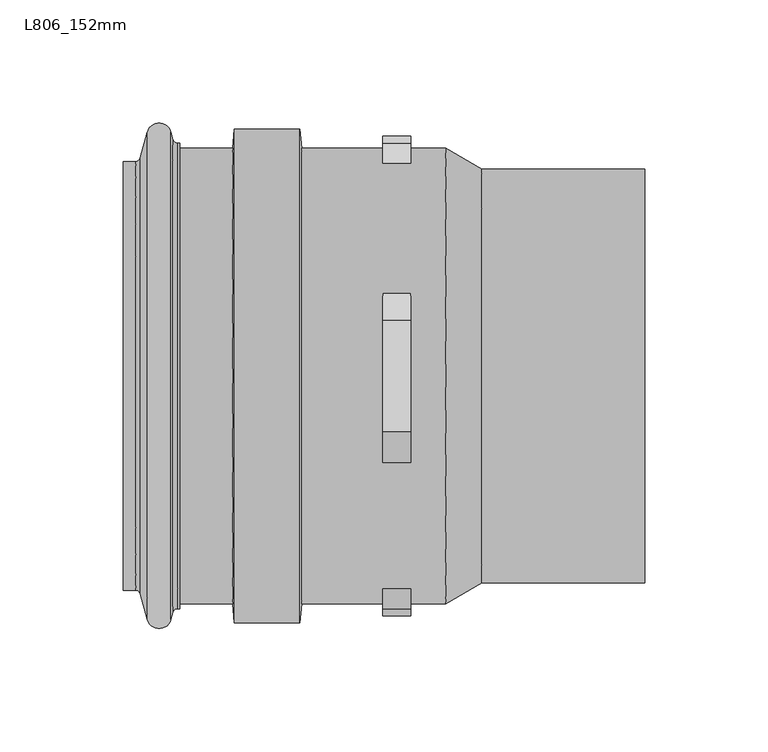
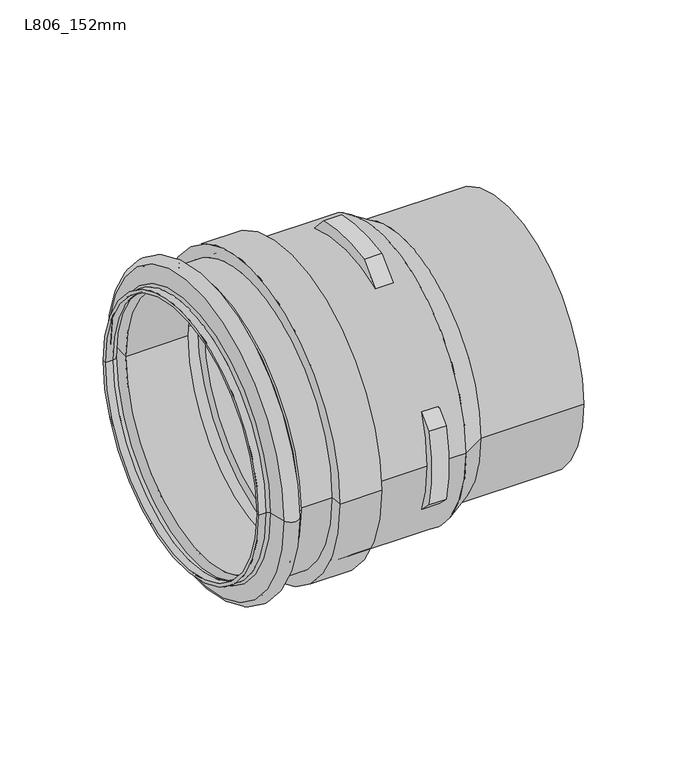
"""IFC4 building model written with IfcOpenShell, lengths in millimetres: pipe fitting geometry, Durapipe_PipeFitting_VulcatheneEnfusion_ThermalStressReliefUnit_L80 : L806_152mm."""

from ifc_helpers import new_model, si_unit, point, frame, origin, place, context, project, spatial, polyline, circle_curve, ellipse_curve, trimmed, source, transform, mapped, element, save
from ifc_brep_helpers import plane_surface, cylinder_surface, revolved_surface, advanced_brep


def l806_152mm_c43d5f0f(model_context):
    return source(origin(), model_context, "Body", "AdvancedBrep", [
        advanced_brep(
        [(105.7723599, -83.9800301, 0.0), (105.7723599, 83.9800301, 0.0), (105.7723599, 75.8340472, 0.0), (105.7723599, -75.8340472, 0.0), (39.7204925, -83.9800301, 0.0), (39.7204925, 83.9800301, 0.0), (25.0356828, -92.4583089, 0.0), (25.0356828, 92.4583089, 0.0), (10.9317857, -92.4583089, 0.0), (10.9317857, -86.2349101, -33.3478509), (-0.4242886, -86.2349101, -33.3478509), (-0.4242886, -92.4583089, 0.0), (-33.4297129, -92.4583089, 0.0), (-33.4297129, 92.4583089, 0.0), (-0.4242886, 92.4583089, 0.0), (-0.4242886, 86.2349101, -33.3478509), (10.9317857, 86.2349101, -33.3478509), (10.9317857, 92.4583089, 0.0), (10.9317857, -1.25, -92.4498588), (10.9317857, 33.5360283, -86.1619039), (-0.4242886, 33.5360283, -86.1619039), (-0.4242886, -1.25, -92.4498588), (10.9317857, 86.2349101, 33.3478509), (-0.4242886, 86.2349101, 33.3478509), (-0.4242886, -86.2349101, 33.3478509), (10.9317857, -86.2349101, 33.3478509), (10.9317857, 33.5360283, 86.1619039), (10.9317857, -1.25, 92.4498588), (-0.4242886, -1.25, 92.4498588), (-0.4242886, 33.5360283, 86.1619039), (-34.1072165, -100.2022101, 0.0), (-34.1072165, 100.2022101, 0.0), (-60.6375527, -100.2022101, 0.0), (-60.6375527, 100.2022101, 0.0), (-61.3150563, -92.4583089, 0.0), (-61.3150563, 92.4583089, 0.0), (-82.75, -92.4583089, 0.0), (-82.75, 92.4583089, 0.0), (-82.75, -94.5, 0.0), (-82.75, 94.5, 0.0), (-83.7303463, -94.5, 0.0), (-83.7303463, 94.5, 0.0), (-85.6204464, -95.9503248, 0.0), (-85.6204464, 95.9503248, 0.0), (-86.4028344, -98.8702366, 0.0), (-86.4028344, 98.8702366, 0.0), (-96.0620926, -98.8702366, 0.0), (-96.0620926, 98.8702366, 0.0), (-98.8455152, -88.4823619, 0.0), (-98.8455152, 88.4823619, 0.0), (-100.7773669, -87.0, 0.0), (-100.7773669, 87.0, 0.0), (-105.75, -87.0, 0.0), (-105.75, 87.0, 0.0), (-105.75, -85.0, 0.0), (-105.75, 85.0, 0.0), (-100.7773669, -85.0, 0.0), (-100.7773669, 85.0, 0.0), (-96.9136636, -87.9647238, 0.0), (-96.9136636, 87.9647238, 0.0), (-94.130241, -98.3525985, 0.0), (-94.130241, 98.3525985, 0.0), (-88.334686, -98.3525985, 0.0), (-88.334686, 98.3525985, 0.0), (-87.552298, -95.4326867, 0.0), (-87.552298, 95.4326867, 0.0), (-92.6023258, -98.25, 0.0), (-92.6023258, 98.25, 0.0), (-92.6023258, -84.4357629, 0.0), (-92.6023258, 84.4357629, 0.0), (-52.6023258, -84.4357629, 0.0), (-52.6023258, 84.4357629, 0.0), (-52.6023258, -92.375, 0.0), (-52.6023258, 92.375, 0.0), (-42.1023258, -92.375, 0.0), (-42.1023258, 92.375, 0.0), (-42.1023258, -84.4357629, 0.0), (-42.1023258, 84.4357629, 0.0), (22.7944193, -84.4357629, 0.0), (22.7944193, 84.4357629, 0.0), (37.6930278, -75.8340472, 0.0), (37.6930278, 75.8340472, 0.0), (10.9317857, 22.56651, 97.9253628), (10.9317857, -22.56651, 99.0708927), (10.9317857, -35.127297, 86.5101056), (10.9317857, -35.127297, -86.5101056), (10.9317857, -22.56651, -99.0708927), (10.9317857, 22.56651, -97.9253628), (10.9317857, -94.5162511, 25.06651), (10.9317857, -94.5162511, -25.06651), (10.9317857, 94.5162511, -25.06651), (10.9317857, 94.5162511, 25.06651), (-0.4242886, -35.127297, 86.5101056), (-0.4242886, -22.56651, 99.0708927), (-0.4242886, 22.56651, 97.9253628), (-0.4242886, 22.56651, -97.9253628), (-0.4242886, -22.56651, -99.0708927), (-0.4242886, -35.127297, -86.5101056), (-0.4242886, -94.5162511, -25.06651), (-0.4242886, -94.5162511, 25.06651), (-0.4242886, 94.5162511, 25.06651), (-0.4242886, 94.5162511, -25.06651)],
        [
            (0, 1, circle_curve(frame((105.7723599, 0.0, 0.0), z_axis=(1.0, 0.0, 0.0), x_axis=(0.0, 1.0, 0.0)), 83.9800301)),
            (1, 2),
            (2, 3, circle_curve(frame((105.7723599, 0.0, 0.0), z_axis=(-1.0, 0.0, 0.0), x_axis=(0.0, 1.0, 0.0)), 75.8340472)),
            (3, 0),
            (1, 0, circle_curve(frame((105.7723599, 0.0, 0.0), z_axis=(1.0, 0.0, 0.0), x_axis=(0.0, 1.0, 0.0)), 83.9800301)),
            (3, 2, circle_curve(frame((105.7723599, 0.0, 0.0), z_axis=(-1.0, 0.0, 0.0), x_axis=(0.0, 1.0, 0.0)), 75.8340472)),
            (0, 4),
            (4, 5, circle_curve(frame((39.7204925, 0.0, 0.0), z_axis=(1.0, 0.0, 0.0), x_axis=(0.0, 1.0, 0.0)), 83.9800301)),
            (5, 1),
            (5, 4, circle_curve(frame((39.7204925, 0.0, 0.0), z_axis=(1.0, 0.0, 0.0), x_axis=(0.0, 1.0, 0.0)), 83.9800301)),
            (4, 6),
            (6, 7, circle_curve(frame((25.0356828, 0.0, 0.0), z_axis=(1.0, 0.0, 0.0), x_axis=(0.0, 1.0, 0.0)), 92.4583089)),
            (7, 5),
            (7, 6, circle_curve(frame((25.0356828, 0.0, 0.0), z_axis=(1.0, 0.0, 0.0), x_axis=(0.0, 1.0, 0.0)), 92.4583089)),
            (6, 8),
            (8, 9, circle_curve(frame((10.9317857, 0.0, 0.0), z_axis=(1.0, 0.0, 0.0), x_axis=(0.0, 1.0, 0.0)), 92.4583089)),
            (9, 10),
            (10, 11, circle_curve(frame((-0.4242886, 0.0, 0.0), z_axis=(-1.0, 0.0, 0.0), x_axis=(0.0, 1.0, 0.0)), 92.4583089)),
            (11, 12),
            (12, 13, circle_curve(frame((-33.4297129, 0.0, 0.0), z_axis=(1.0, 0.0, 0.0), x_axis=(0.0, 1.0, 0.0)), 92.4583089)),
            (13, 14),
            (14, 15, circle_curve(frame((-0.4242886, 0.0, 0.0), z_axis=(-1.0, 0.0, 0.0), x_axis=(0.0, 1.0, 0.0)), 92.4583089)),
            (15, 16),
            (16, 17, circle_curve(frame((10.9317857, 0.0, 0.0), z_axis=(1.0, 0.0, 0.0), x_axis=(0.0, 1.0, 0.0)), 92.4583089)),
            (17, 7),
            (18, 19, circle_curve(frame((10.9317857, 0.0, 0.0), z_axis=(1.0, 0.0, 0.0), x_axis=(0.0, 1.0, 0.0)), 92.4583089)),
            (19, 20),
            (20, 21, circle_curve(frame((-0.4242886, 0.0, 0.0), z_axis=(-1.0, 0.0, 0.0), x_axis=(0.0, 1.0, 0.0)), 92.4583089)),
            (21, 18),
            (17, 22, circle_curve(frame((10.9317857, 0.0, 0.0), z_axis=(1.0, 0.0, 0.0), x_axis=(0.0, 1.0, 0.0)), 92.4583089)),
            (22, 23),
            (23, 14, circle_curve(frame((-0.4242886, 0.0, 0.0), z_axis=(-1.0, 0.0, 0.0), x_axis=(0.0, 1.0, 0.0)), 92.4583089)),
            (13, 12, circle_curve(frame((-33.4297129, 0.0, 0.0), z_axis=(1.0, 0.0, 0.0), x_axis=(0.0, 1.0, 0.0)), 92.4583089)),
            (11, 24, circle_curve(frame((-0.4242886, 0.0, 0.0), z_axis=(-1.0, 0.0, 0.0), x_axis=(0.0, 1.0, 0.0)), 92.4583089)),
            (24, 25),
            (25, 8, circle_curve(frame((10.9317857, 0.0, 0.0), z_axis=(1.0, 0.0, 0.0), x_axis=(0.0, 1.0, 0.0)), 92.4583089)),
            (26, 27, circle_curve(frame((10.9317857, 0.0, 0.0), z_axis=(1.0, 0.0, 0.0), x_axis=(0.0, 1.0, 0.0)), 92.4583089)),
            (27, 28),
            (28, 29, circle_curve(frame((-0.4242886, 0.0, 0.0), z_axis=(-1.0, 0.0, 0.0), x_axis=(0.0, 1.0, 0.0)), 92.4583089)),
            (29, 26),
            (12, 30),
            (30, 31, circle_curve(frame((-34.1072165, 0.0, 0.0), z_axis=(1.0, 0.0, 0.0), x_axis=(0.0, 1.0, 0.0)), 100.2022101)),
            (31, 13),
            (31, 30, circle_curve(frame((-34.1072165, 0.0, 0.0), z_axis=(1.0, 0.0, 0.0), x_axis=(0.0, 1.0, 0.0)), 100.2022101)),
            (30, 32),
            (32, 33, circle_curve(frame((-60.6375527, 0.0, 0.0), z_axis=(1.0, 0.0, 0.0), x_axis=(0.0, 1.0, 0.0)), 100.2022101)),
            (33, 31),
            (33, 32, circle_curve(frame((-60.6375527, 0.0, 0.0), z_axis=(1.0, 0.0, 0.0), x_axis=(0.0, 1.0, 0.0)), 100.2022101)),
            (32, 34),
            (34, 35, circle_curve(frame((-61.3150563, 0.0, 0.0), z_axis=(1.0, 0.0, 0.0), x_axis=(0.0, 1.0, 0.0)), 92.4583089)),
            (35, 33),
            (35, 34, circle_curve(frame((-61.3150563, 0.0, 0.0), z_axis=(1.0, 0.0, 0.0), x_axis=(0.0, 1.0, 0.0)), 92.4583089)),
            (34, 36),
            (36, 37, circle_curve(frame((-82.75, 0.0, 0.0), z_axis=(1.0, 0.0, 0.0), x_axis=(0.0, 1.0, 0.0)), 92.4583089)),
            (37, 35),
            (37, 36, circle_curve(frame((-82.75, 0.0, 0.0), z_axis=(1.0, 0.0, 0.0), x_axis=(0.0, 1.0, 0.0)), 92.4583089)),
            (36, 38),
            (38, 39, circle_curve(frame((-82.75, 0.0, 0.0), z_axis=(1.0, 0.0, 0.0), x_axis=(0.0, 1.0, 0.0)), 94.5)),
            (39, 37),
            (39, 38, circle_curve(frame((-82.75, 0.0, 0.0), z_axis=(1.0, 0.0, 0.0), x_axis=(0.0, 1.0, 0.0)), 94.5)),
            (38, 40),
            (40, 41, circle_curve(frame((-83.7303463, 0.0, 0.0), z_axis=(1.0, 0.0, 0.0), x_axis=(0.0, 1.0, 0.0)), 94.5)),
            (41, 39),
            (41, 40, circle_curve(frame((-83.7303463, 0.0, 0.0), z_axis=(1.0, 0.0, 0.0), x_axis=(0.0, 1.0, 0.0)), 94.5)),
            (40, 42, circle_curve(frame((-83.7303463, -96.4567756, 0.0), z_axis=(0.0, 0.0, 1.0), x_axis=(1.0, 0.0, 0.0)), 1.9567756)),
            (42, 43, circle_curve(frame((-85.6204464, 0.0, 0.0), z_axis=(1.0, 0.0, 0.0), x_axis=(0.0, 1.0, 0.0)), 95.9503248)),
            (43, 41, circle_curve(frame((-83.7303463, 96.4567756, 0.0), z_axis=(0.0, 0.0, 1.0), x_axis=(1.0, 0.0, 0.0)), 1.9567756)),
            (43, 42, circle_curve(frame((-85.6204464, 0.0, 0.0), z_axis=(1.0, 0.0, 0.0), x_axis=(0.0, 1.0, 0.0)), 95.9503248)),
            (42, 44),
            (44, 45, circle_curve(frame((-86.4028344, 0.0, 0.0), z_axis=(1.0, 0.0, 0.0), x_axis=(0.0, 1.0, 0.0)), 98.8702366)),
            (45, 43),
            (45, 44, circle_curve(frame((-86.4028344, 0.0, 0.0), z_axis=(1.0, 0.0, 0.0), x_axis=(0.0, 1.0, 0.0)), 98.8702366)),
            (44, 46, circle_curve(frame((-91.2324635, -97.5761413, 0.0), z_axis=(0.0, 0.0, -1.0), x_axis=(1.0, 0.0, 0.0)), 5.0)),
            (46, 47, circle_curve(frame((-96.0620926, 0.0, 0.0), z_axis=(1.0, 0.0, 0.0), x_axis=(0.0, 1.0, 0.0)), 98.8702366)),
            (47, 45, circle_curve(frame((-91.2324635, 97.5761413, 0.0), z_axis=(0.0, 0.0, -1.0), x_axis=(1.0, 0.0, 0.0)), 5.0)),
            (47, 46, circle_curve(frame((-96.0620926, 0.0, 0.0), z_axis=(1.0, 0.0, 0.0), x_axis=(0.0, 1.0, 0.0)), 98.8702366)),
            (46, 48),
            (48, 49, circle_curve(frame((-98.8455152, 0.0, 0.0), z_axis=(1.0, 0.0, 0.0), x_axis=(0.0, 1.0, 0.0)), 88.4823619)),
            (49, 47),
            (49, 48, circle_curve(frame((-98.8455152, 0.0, 0.0), z_axis=(1.0, 0.0, 0.0), x_axis=(0.0, 1.0, 0.0)), 88.4823619)),
            (48, 50, circle_curve(frame((-100.7773669, -89.0, 0.0), z_axis=(0.0, 0.0, 1.0), x_axis=(1.0, 0.0, 0.0)), 2.0)),
            (50, 51, circle_curve(frame((-100.7773669, 0.0, 0.0), z_axis=(1.0, 0.0, 0.0), x_axis=(0.0, 1.0, 0.0)), 87.0)),
            (51, 49, circle_curve(frame((-100.7773669, 89.0, 0.0), z_axis=(0.0, 0.0, 1.0), x_axis=(1.0, 0.0, 0.0)), 2.0)),
            (51, 50, circle_curve(frame((-100.7773669, 0.0, 0.0), z_axis=(1.0, 0.0, 0.0), x_axis=(0.0, 1.0, 0.0)), 87.0)),
            (50, 52),
            (52, 53, circle_curve(frame((-105.75, 0.0, 0.0), z_axis=(1.0, 0.0, 0.0), x_axis=(0.0, 1.0, 0.0)), 87.0)),
            (53, 51),
            (53, 52, circle_curve(frame((-105.75, 0.0, 0.0), z_axis=(1.0, 0.0, 0.0), x_axis=(0.0, 1.0, 0.0)), 87.0)),
            (52, 54),
            (54, 55, circle_curve(frame((-105.75, 0.0, 0.0), z_axis=(1.0, 0.0, 0.0), x_axis=(0.0, 1.0, 0.0)), 85.0)),
            (55, 53),
            (55, 54, circle_curve(frame((-105.75, 0.0, 0.0), z_axis=(1.0, 0.0, 0.0), x_axis=(0.0, 1.0, 0.0)), 85.0)),
            (54, 56),
            (56, 57, circle_curve(frame((-100.7773669, 0.0, 0.0), z_axis=(1.0, 0.0, 0.0), x_axis=(0.0, 1.0, 0.0)), 85.0)),
            (57, 55),
            (57, 56, circle_curve(frame((-100.7773669, 0.0, 0.0), z_axis=(1.0, 0.0, 0.0), x_axis=(0.0, 1.0, 0.0)), 85.0)),
            (56, 58, circle_curve(frame((-100.7773669, -89.0, 0.0), z_axis=(0.0, 0.0, -1.0), x_axis=(1.0, 0.0, 0.0)), 4.0)),
            (58, 59, circle_curve(frame((-96.9136636, 0.0, 0.0), z_axis=(1.0, 0.0, 0.0), x_axis=(0.0, 1.0, 0.0)), 87.9647238)),
            (59, 57, circle_curve(frame((-100.7773669, 89.0, 0.0), z_axis=(0.0, 0.0, -1.0), x_axis=(1.0, 0.0, 0.0)), 4.0)),
            (59, 58, circle_curve(frame((-96.9136636, 0.0, 0.0), z_axis=(1.0, 0.0, 0.0), x_axis=(0.0, 1.0, 0.0)), 87.9647238)),
            (58, 60),
            (60, 61, circle_curve(frame((-94.130241, 0.0, 0.0), z_axis=(1.0, 0.0, 0.0), x_axis=(0.0, 1.0, 0.0)), 98.3525985)),
            (61, 59),
            (61, 60, circle_curve(frame((-94.130241, 0.0, 0.0), z_axis=(1.0, 0.0, 0.0), x_axis=(0.0, 1.0, 0.0)), 98.3525985)),
            (60, 62, circle_curve(frame((-91.2324635, -97.5761413, 0.0), z_axis=(0.0, 0.0, 1.0), x_axis=(1.0, 0.0, 0.0)), 3.0)),
            (62, 63, circle_curve(frame((-88.334686, 0.0, 0.0), z_axis=(1.0, 0.0, 0.0), x_axis=(0.0, 1.0, 0.0)), 98.3525985)),
            (63, 61, circle_curve(frame((-91.2324635, 97.5761413, 0.0), z_axis=(0.0, 0.0, 1.0), x_axis=(1.0, 0.0, 0.0)), 3.0)),
            (63, 62, circle_curve(frame((-88.334686, 0.0, 0.0), z_axis=(1.0, 0.0, 0.0), x_axis=(0.0, 1.0, 0.0)), 98.3525985)),
            (62, 64),
            (64, 65, circle_curve(frame((-87.552298, 0.0, 0.0), z_axis=(1.0, 0.0, 0.0), x_axis=(0.0, 1.0, 0.0)), 95.4326867)),
            (65, 63),
            (65, 64, circle_curve(frame((-87.552298, 0.0, 0.0), z_axis=(1.0, 0.0, 0.0), x_axis=(0.0, 1.0, 0.0)), 95.4326867)),
            (64, 66, circle_curve(frame((-92.5924856, -92.3329001, 0.0), z_axis=(0.0, 0.0, -1.0), x_axis=(1.0, 0.0, 0.0)), 5.9171081)),
            (66, 67, circle_curve(frame((-92.6023258, 0.0, 0.0), z_axis=(1.0, 0.0, 0.0), x_axis=(0.0, 1.0, 0.0)), 98.25)),
            (67, 65, circle_curve(frame((-92.5924856, 92.3329001, 0.0), z_axis=(0.0, 0.0, -1.0), x_axis=(1.0, 0.0, 0.0)), 5.9171081)),
            (67, 66, circle_curve(frame((-92.6023258, 0.0, 0.0), z_axis=(1.0, 0.0, 0.0), x_axis=(0.0, 1.0, 0.0)), 98.25)),
            (66, 68),
            (68, 69, circle_curve(frame((-92.6023258, 0.0, 0.0), z_axis=(1.0, 0.0, 0.0), x_axis=(0.0, 1.0, 0.0)), 84.4357629)),
            (69, 67),
            (69, 68, circle_curve(frame((-92.6023258, 0.0, 0.0), z_axis=(1.0, 0.0, 0.0), x_axis=(0.0, 1.0, 0.0)), 84.4357629)),
            (68, 70),
            (70, 71, circle_curve(frame((-52.6023258, 0.0, 0.0), z_axis=(1.0, 0.0, 0.0), x_axis=(0.0, 1.0, 0.0)), 84.4357629)),
            (71, 69),
            (71, 70, circle_curve(frame((-52.6023258, 0.0, 0.0), z_axis=(1.0, 0.0, 0.0), x_axis=(0.0, 1.0, 0.0)), 84.4357629)),
            (70, 72),
            (72, 73, circle_curve(frame((-52.6023258, 0.0, 0.0), z_axis=(1.0, 0.0, 0.0), x_axis=(0.0, 1.0, 0.0)), 92.375)),
            (73, 71),
            (73, 72, circle_curve(frame((-52.6023258, 0.0, 0.0), z_axis=(1.0, 0.0, 0.0), x_axis=(0.0, 1.0, 0.0)), 92.375)),
            (72, 74),
            (74, 75, circle_curve(frame((-42.1023258, 0.0, 0.0), z_axis=(1.0, 0.0, 0.0), x_axis=(0.0, 1.0, 0.0)), 92.375)),
            (75, 73),
            (75, 74, circle_curve(frame((-42.1023258, 0.0, 0.0), z_axis=(1.0, 0.0, 0.0), x_axis=(0.0, 1.0, 0.0)), 92.375)),
            (74, 76),
            (76, 77, circle_curve(frame((-42.1023258, 0.0, 0.0), z_axis=(1.0, 0.0, 0.0), x_axis=(0.0, 1.0, 0.0)), 84.4357629)),
            (77, 75),
            (77, 76, circle_curve(frame((-42.1023258, 0.0, 0.0), z_axis=(1.0, 0.0, 0.0), x_axis=(0.0, 1.0, 0.0)), 84.4357629)),
            (76, 78),
            (78, 79, circle_curve(frame((22.7944193, 0.0, 0.0), z_axis=(1.0, 0.0, 0.0), x_axis=(0.0, 1.0, 0.0)), 84.4357629)),
            (79, 77),
            (79, 78, circle_curve(frame((22.7944193, 0.0, 0.0), z_axis=(1.0, 0.0, 0.0), x_axis=(0.0, 1.0, 0.0)), 84.4357629)),
            (78, 80),
            (80, 81, circle_curve(frame((37.6930278, 0.0, 0.0), z_axis=(1.0, 0.0, 0.0), x_axis=(0.0, 1.0, 0.0)), 75.8340472)),
            (81, 79),
            (81, 80, circle_curve(frame((37.6930278, 0.0, 0.0), z_axis=(1.0, 0.0, 0.0), x_axis=(0.0, 1.0, 0.0)), 75.8340472)),
            (2, 81),
            (80, 3),
            (82, 83, circle_curve(frame((10.9317857, -2.5, 0.0), z_axis=(1.0, 0.0, 0.0), x_axis=(0.0, 1.0, 0.0)), 101.0826721)),
            (83, 84),
            (84, 27, circle_curve(frame((10.9317857, -2.5, 0.0), z_axis=(-1.0, 0.0, 0.0), x_axis=(0.0, 1.0, 0.0)), 92.4583089)),
            (26, 82),
            (85, 86),
            (86, 87, circle_curve(frame((10.9317857, -2.5, 0.0), z_axis=(1.0, 0.0, 0.0), x_axis=(0.0, 1.0, 0.0)), 101.0826721)),
            (87, 19),
            (18, 85, circle_curve(frame((10.9317857, -2.5, 0.0), z_axis=(-1.0, 0.0, 0.0), x_axis=(0.0, 1.0, 0.0)), 92.4583089)),
            (88, 89, circle_curve(frame((10.9317857, -2.5, 0.0), z_axis=(1.0, 0.0, 0.0), x_axis=(0.0, 1.0, 0.0)), 95.3693892)),
            (89, 9),
            (25, 88),
            (90, 91, circle_curve(frame((10.9317857, -2.5, 0.0), z_axis=(1.0, 0.0, 0.0), x_axis=(0.0, 1.0, 0.0)), 100.2022101)),
            (91, 22),
            (16, 90),
            (92, 93),
            (93, 94, circle_curve(frame((-0.4242886, -2.5, 0.0), z_axis=(-1.0, 0.0, 0.0), x_axis=(0.0, 1.0, 0.0)), 101.0826721)),
            (94, 29),
            (28, 92, circle_curve(frame((-0.4242886, -2.5, 0.0), z_axis=(1.0, 0.0, 0.0), x_axis=(0.0, 1.0, 0.0)), 92.4583089)),
            (95, 96, circle_curve(frame((-0.4242886, -2.5, 0.0), z_axis=(-1.0, 0.0, 0.0), x_axis=(0.0, 1.0, 0.0)), 101.0826721)),
            (96, 97),
            (97, 21, circle_curve(frame((-0.4242886, -2.5, 0.0), z_axis=(1.0, 0.0, 0.0), x_axis=(0.0, 1.0, 0.0)), 92.4583089)),
            (20, 95),
            (98, 99, circle_curve(frame((-0.4242886, -2.5, 0.0), z_axis=(-1.0, 0.0, 0.0), x_axis=(0.0, 1.0, 0.0)), 95.3693892)),
            (99, 24),
            (10, 98),
            (100, 101, circle_curve(frame((-0.4242886, -2.5, 0.0), z_axis=(-1.0, 0.0, 0.0), x_axis=(0.0, 1.0, 0.0)), 100.2022101)),
            (101, 15),
            (23, 100),
            (94, 82),
            (93, 83),
            (92, 84),
            (85, 97),
            (96, 86),
            (95, 87),
            (99, 88),
            (98, 89),
            (101, 90),
            (100, 91),
        ],
        [
            plane_surface(frame((105.7723599, 0.0, 0.0), z_axis=(1.0, 0.0, 0.0), x_axis=(0.0, 1.0, 0.0))),
            cylinder_surface(frame((165.0, 0.0, 0.0), z_axis=(-1.0, 0.0, 0.0), x_axis=(0.0, 1.0, 0.0)), 83.9800301),
            revolved_surface(polyline([(39.7204925, 83.9800301, 0.0), (25.0356828, 92.4583089, 0.0)]), (165.0, 0.0, 0.0), (-1.0, 0.0, 0.0)),
            cylinder_surface(frame((165.0, 0.0, 0.0), z_axis=(-1.0, 0.0, 0.0), x_axis=(0.0, 1.0, 0.0)), 92.4583089),
            revolved_surface(polyline([(-33.4297129, 92.4583089, 0.0), (-34.1072165, 100.2022101, 0.0)]), (165.0, 0.0, 0.0), (-1.0, 0.0, 0.0)),
            cylinder_surface(frame((165.0, 0.0, 0.0), z_axis=(-1.0, 0.0, 0.0), x_axis=(0.0, 1.0, 0.0)), 100.2022101),
            revolved_surface(polyline([(-60.6375527, 100.2022101, 0.0), (-61.3150563, 92.4583089, 0.0)]), (165.0, 0.0, 0.0), (-1.0, 0.0, 0.0)),
            plane_surface(frame((-82.75, 0.0, 0.0), z_axis=(1.0, 0.0, 0.0), x_axis=(0.0, 1.0, 0.0))),
            cylinder_surface(frame((165.0, 0.0, 0.0), z_axis=(-1.0, 0.0, 0.0), x_axis=(0.0, 1.0, 0.0)), 94.5),
            revolved_surface(trimmed(ellipse_curve(frame((-83.7303463, 96.4567756, 0.0), z_axis=(0.0, 0.0, -1.0), x_axis=(1.0, 0.0, 0.0)), 1.9567756, 1.9567756), [point((-83.7303463, 94.5, 0.0))], [point((-85.6204464, 95.9503248, 0.0))], True, "CARTESIAN"), (165.0, 0.0, 0.0), (-1.0, 0.0, 0.0)),
            revolved_surface(polyline([(-85.6204464, 95.9503248, 0.0), (-86.4028344, 98.8702366, 0.0)]), (165.0, 0.0, 0.0), (-1.0, 0.0, 0.0)),
            revolved_surface(trimmed(ellipse_curve(frame((-91.2324635, 97.5761413, 0.0), z_axis=(0.0, 0.0, 1.0), x_axis=(1.0, 0.0, 0.0)), 5.0, 5.0), [point((-86.4028344, 98.8702366, 0.0))], [point((-96.0620926, 98.8702366, 0.0))], True, "CARTESIAN"), (165.0, 0.0, 0.0), (-1.0, 0.0, 0.0)),
            revolved_surface(polyline([(-96.0620926, 98.8702366, 0.0), (-98.8455152, 88.4823619, 0.0)]), (165.0, 0.0, 0.0), (-1.0, 0.0, 0.0)),
            revolved_surface(trimmed(ellipse_curve(frame((-100.7773669, 89.0, 0.0), z_axis=(0.0, 0.0, -1.0), x_axis=(1.0, 0.0, 0.0)), 2.0, 2.0), [point((-98.8455152, 88.4823619, 0.0))], [point((-100.7773669, 87.0, 0.0))], True, "CARTESIAN"), (165.0, 0.0, 0.0), (-1.0, 0.0, 0.0)),
            cylinder_surface(frame((165.0, 0.0, 0.0), z_axis=(-1.0, 0.0, 0.0), x_axis=(0.0, 1.0, 0.0)), 87.0),
            plane_surface(frame((-105.75, 0.0, 0.0), z_axis=(-1.0, 0.0, 0.0), x_axis=(0.0, 1.0, 0.0))),
            revolved_surface(polyline([(-105.75, 85.0, 0.0), (-100.7773669, 85.0, 0.0)]), (165.0, 0.0, 0.0), (-1.0, 0.0, 0.0)),
            revolved_surface(trimmed(ellipse_curve(frame((-100.7773669, 89.0, 0.0), z_axis=(0.0, 0.0, 1.0), x_axis=(1.0, 0.0, 0.0)), 4.0, 4.0), [point((-100.7773669, 85.0, 0.0))], [point((-96.9136636, 87.9647238, 0.0))], True, "CARTESIAN"), (165.0, 0.0, 0.0), (-1.0, 0.0, 0.0)),
            revolved_surface(polyline([(-96.9136636, 87.9647238, 0.0), (-94.130241, 98.3525985, 0.0)]), (165.0, 0.0, 0.0), (-1.0, 0.0, 0.0)),
            revolved_surface(trimmed(ellipse_curve(frame((-91.2324635, 97.5761413, 0.0), z_axis=(0.0, 0.0, -1.0), x_axis=(1.0, 0.0, 0.0)), 3.0, 3.0), [point((-94.130241, 98.3525985, 0.0))], [point((-88.334686, 98.3525985, 0.0))], True, "CARTESIAN"), (165.0, 0.0, 0.0), (-1.0, 0.0, 0.0)),
            revolved_surface(polyline([(-88.334686, 98.3525985, 0.0), (-87.552298, 95.4326867, 0.0)]), (165.0, 0.0, 0.0), (-1.0, 0.0, 0.0)),
            revolved_surface(trimmed(ellipse_curve(frame((-92.5924856, 92.3329001, 0.0), z_axis=(0.0, 0.0, 1.0), x_axis=(1.0, 0.0, 0.0)), 5.9171081, 5.9171081), [point((-87.552298, 95.4326867, 0.0))], [point((-92.6023258, 98.25, 0.0))], True, "CARTESIAN"), (165.0, 0.0, 0.0), (-1.0, 0.0, 0.0)),
            plane_surface(frame((-92.6023258, 0.0, 0.0), z_axis=(-1.0, 0.0, 0.0), x_axis=(0.0, 1.0, 0.0))),
            revolved_surface(polyline([(-92.60232580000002, 84.4357629, 0.0), (-52.60232580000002, 84.4357629, 0.0)]), (165.0, 0.0, 0.0), (-1.0, 0.0, 0.0)),
            plane_surface(frame((-52.6023258, 0.0, 0.0), z_axis=(1.0, 0.0, 0.0), x_axis=(0.0, 1.0, 0.0))),
            revolved_surface(polyline([(-52.60232580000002, 92.375, 0.0), (-42.10232580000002, 92.375, 0.0)]), (165.0, 0.0, 0.0), (-1.0, 0.0, 0.0)),
            plane_surface(frame((-42.1023258, 0.0, 0.0), z_axis=(-1.0, 0.0, 0.0), x_axis=(0.0, 1.0, 0.0))),
            revolved_surface(polyline([(-42.10232580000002, 84.4357629, 0.0), (22.794419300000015, 84.4357629, 0.0)]), (165.0, 0.0, 0.0), (-1.0, 0.0, 0.0)),
            revolved_surface(polyline([(22.7944193, 84.4357629, 0.0), (37.6930278, 75.8340472, 0.0)]), (165.0, 0.0, 0.0), (-1.0, 0.0, 0.0)),
            revolved_surface(polyline([(37.69302780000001, 75.8340472, 0.0), (105.7723599, 75.8340472, 0.0)]), (165.0, 0.0, 0.0), (-1.0, 0.0, 0.0)),
            plane_surface(frame((10.9317857, 22.56651, 97.9253628), z_axis=(1.0, 0.0, 0.0), x_axis=(0.0, -0.6819955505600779, 0.7313563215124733))),
            plane_surface(frame((-0.4242886, 22.56651, 97.9253628), z_axis=(-1.0, 0.0, 0.0), x_axis=(0.0, 0.6819955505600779, -0.7313563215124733))),
            plane_surface(frame((10.9317857, 35.127297, 84.455464), z_axis=(0.0, 0.7313563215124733, 0.6819955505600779), x_axis=(-1.0, 0.0, 0.0))),
            cylinder_surface(frame((-0.4242886, -2.5, 0.0), z_axis=(1.0, 0.0, 0.0), x_axis=(0.0, 1.0, 0.0)), 101.0826721),
            plane_surface(frame((10.9317857, -22.56651, 99.0708927), z_axis=(0.0, -0.7071067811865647, 0.7071067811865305), x_axis=(-1.0, 0.0, 0.0))),
            plane_surface(frame((10.9317857, -35.127297, -86.5101056), z_axis=(0.0, -0.707106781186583, -0.707106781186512), x_axis=(-1.0, 0.0, 0.0))),
            cylinder_surface(frame((0.0, -2.5, 0.0), z_axis=(1.0, 0.0, 0.0), x_axis=(0.0, 1.0, 0.0)), 101.0826721),
            plane_surface(frame((10.9317857, 22.56651, -97.9253628), z_axis=(0.0, 0.7313563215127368, -0.6819955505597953), x_axis=(-1.0, 0.0, 0.0))),
            plane_surface(frame((10.9317857, -81.955464, 37.627297), z_axis=(0.0, -0.7071067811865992, 0.707106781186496), x_axis=(-1.0, 0.0, 0.0))),
            cylinder_surface(frame((0.0, -2.5, 0.0), z_axis=(1.0, 0.0, 0.0), x_axis=(0.0, 1.0, 0.0)), 95.3693892),
            plane_surface(frame((10.9317857, -94.5162511, -25.06651), z_axis=(0.0, -0.7071067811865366, -0.7071067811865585), x_axis=(-1.0, 0.0, 0.0))),
            plane_surface(frame((10.9317857, 81.955464, -37.627297), z_axis=(0.0, 0.7071067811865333, -0.7071067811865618), x_axis=(-1.0, 0.0, 0.0))),
            cylinder_surface(frame((0.0, -2.5, 0.0), z_axis=(1.0, 0.0, 0.0), x_axis=(0.0, 1.0, 0.0)), 100.2022101),
            plane_surface(frame((10.9317857, 94.5162511, 25.06651), z_axis=(0.0, 0.7071067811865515, 0.7071067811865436), x_axis=(-1.0, 0.0, 0.0))),
            revolved_surface(polyline([(-0.4242886, 89.9583089, 0.0), (10.9317857, 89.9583089, 0.0)]), (-0.4242886, -2.5, 0.0), (-1.0, 0.0, 0.0)),
            revolved_surface(polyline([(-0.4242886, 89.9583089, 0.0), (10.9317857, 89.9583089, 0.0)]), (0.0, -2.5, 0.0), (-1.0, 0.0, 0.0)),
        ],
        [
            (0, [[1, 2, 3, 4]]),
            (0, [[-2, 5, -4, 6]]),
            (1, [[-1, 7, 8, 9]]),
            (1, [[-5, -9, 10, -7]]),
            (2, [[-8, 11, 12, 13]]),
            (2, [[-10, -13, 14, -11]]),
            (3, [[-12, 15, 16, 17, 18, 19, 20, 21, 22, 23, 24, 25], [26, 27, 28, 29]]),
            (3, [[-14, -25, 30, 31, 32, -21, 33, -19, 34, 35, 36, -15], [37, 38, 39, 40]]),
            (4, [[-20, 41, 42, 43]]),
            (4, [[-33, -43, 44, -41]]),
            (5, [[-42, 45, 46, 47]]),
            (5, [[-44, -47, 48, -45]]),
            (6, [[-46, 49, 50, 51]]),
            (6, [[-48, -51, 52, -49]]),
            (3, [[-50, 53, 54, 55]]),
            (3, [[-52, -55, 56, -53]]),
            (7, [[-54, 57, 58, 59]]),
            (7, [[-56, -59, 60, -57]]),
            (8, [[-58, 61, 62, 63]]),
            (8, [[-60, -63, 64, -61]]),
            (9, [[-62, 65, 66, 67]]),
            (9, [[-64, -67, 68, -65]]),
            (10, [[-66, 69, 70, 71]]),
            (10, [[-68, -71, 72, -69]]),
            (11, [[-70, 73, 74, 75]]),
            (11, [[-72, -75, 76, -73]]),
            (12, [[-74, 77, 78, 79]]),
            (12, [[-76, -79, 80, -77]]),
            (13, [[-78, 81, 82, 83]]),
            (13, [[-80, -83, 84, -81]]),
            (14, [[-82, 85, 86, 87]]),
            (14, [[-84, -87, 88, -85]]),
            (15, [[-86, 89, 90, 91]]),
            (15, [[-88, -91, 92, -89]]),
            (16, [[-90, 93, 94, 95]]),
            (16, [[-92, -95, 96, -93]]),
            (17, [[-94, 97, 98, 99]]),
            (17, [[-96, -99, 100, -97]]),
            (18, [[-98, 101, 102, 103]]),
            (18, [[-100, -103, 104, -101]]),
            (19, [[-102, 105, 106, 107]]),
            (19, [[-104, -107, 108, -105]]),
            (20, [[-106, 109, 110, 111]]),
            (20, [[-108, -111, 112, -109]]),
            (21, [[-110, 113, 114, 115]]),
            (21, [[-112, -115, 116, -113]]),
            (22, [[-114, 117, 118, 119]]),
            (22, [[-116, -119, 120, -117]]),
            (23, [[-118, 121, 122, 123]]),
            (23, [[-120, -123, 124, -121]]),
            (24, [[-122, 125, 126, 127]]),
            (24, [[-124, -127, 128, -125]]),
            (25, [[-126, 129, 130, 131]]),
            (25, [[-128, -131, 132, -129]]),
            (26, [[-130, 133, 134, 135]]),
            (26, [[-132, -135, 136, -133]]),
            (27, [[-134, 137, 138, 139]]),
            (27, [[-136, -139, 140, -137]]),
            (28, [[-138, 141, 142, 143]]),
            (28, [[-140, -143, 144, -141]]),
            (29, [[-3, 145, -142, 146]]),
            (29, [[-6, -146, -144, -145]]),
            (30, [[147, 148, 149, -37, 150]]),
            (30, [[151, 152, 153, -26, 154]]),
            (30, [[155, 156, -16, -36, 157]]),
            (30, [[158, 159, -30, -24, 160]]),
            (31, [[161, 162, 163, -39, 164]]),
            (31, [[165, 166, 167, -28, 168]]),
            (31, [[169, 170, -34, -18, 171]]),
            (31, [[172, 173, -22, -32, 174]]),
            (32, [[175, -150, -40, -163]]),
            (33, [[-147, -175, -162, 176]]),
            (34, [[-148, -176, -161, 177]]),
            (35, [[-151, 178, -166, 179]]),
            (36, [[-152, -179, -165, 180]]),
            (37, [[-180, -168, -27, -153]]),
            (38, [[181, -157, -35, -170]]),
            (39, [[-155, -181, -169, 182]]),
            (40, [[-182, -171, -17, -156]]),
            (41, [[183, -160, -23, -173]]),
            (42, [[-158, -183, -172, 184]]),
            (43, [[-184, -174, -31, -159]]),
            (44, [[-177, -164, -38, -149]]),
            (45, [[-178, -154, -29, -167]]),
        ],
    ),
    ])


if __name__ == "__main__":
    model = new_model("IFC4")
    model_context = context("Model", 3, world=origin())
    ifc_project = project(units=[si_unit("LENGTHUNIT", "METRE", prefix="MILLI")], contexts=[model_context])
    site = spatial("IfcSite", under=ifc_project)
    building = spatial("IfcBuilding", under=site)
    placement = place(None, origin())
    l806_152mm_shape = l806_152mm_c43d5f0f(model_context)
    element("IfcPipeFitting", 1, ObjectType="Durapipe_PipeFitting_VulcatheneEnfusion_ThermalStressReliefUnit_L80 : L806_152mm", at=placement, inside=building, context=model_context, shape_type="MappedRepresentation", body=[
        mapped(l806_152mm_shape, transform((0.0, 0.0, 0.0), x_axis=(1.0, 0.0, 0.0), y_axis=(0.0, 1.0, 0.0), z_axis=(0.0, 0.0, 1.0))),
    ])
    save(model, "model.ifc")
